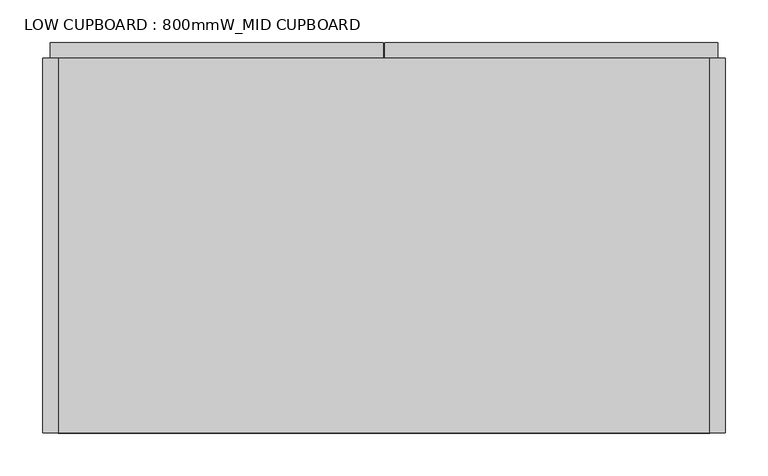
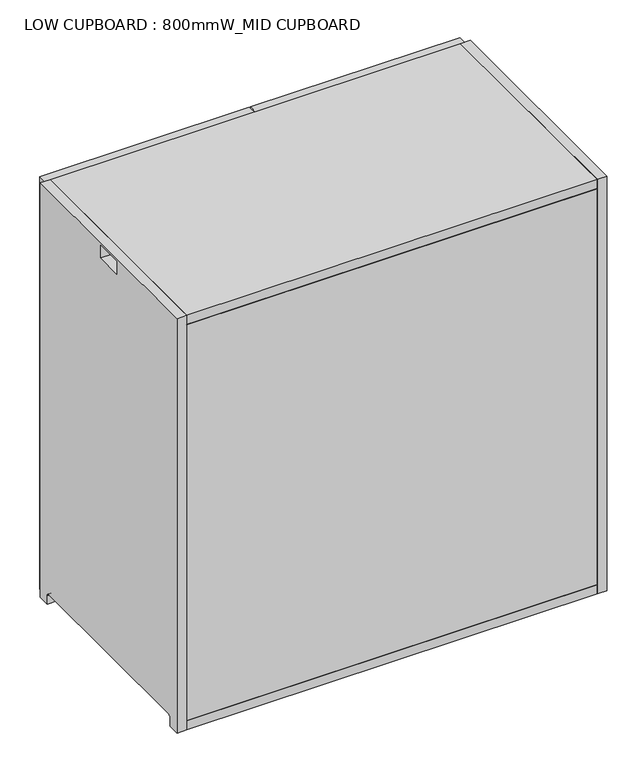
"""IFC4 building model written with IfcOpenShell, lengths in millimetres: furniture geometry, LOW CUPBOARD : 800mmW_MID CUPBOARD."""

from ifc_helpers import new_model, si_unit, point, frame, frame_2d, origin, place, context, project, spatial, polyline, circle_curve, trimmed, segment, composite_curve, outline, extrude, source, transform, mapped, element, save
from ifc_brep_helpers import plane_surface, revolved_surface, advanced_brep


def low_cupboard_800mmw_mid_cupboard_bf2255b2(model_context):
    return source(origin(), model_context, "Body", "SolidModel", [
        extrude(outline(composite_curve([segment(polyline([(220.0, 815.0), (220.0, 0.0), (198.0, 0.0), (198.0, 17.0)]), True, "CONTINUOUS"), segment(trimmed(circle_curve(frame_2d((194.0, 17.0)), 4.0), [point((198.0, 17.0))], [point((194.0, 21.0))], True, "CARTESIAN"), True, "CONTINUOUS"), segment(polyline([(194.0, 21.0), (-194.0, 21.0)]), True, "CONTINUOUS"), segment(trimmed(circle_curve(frame_2d((-194.0, 17.0)), 4.0), [point((-194.0, 21.0))], [point((-198.0, 17.0))], True, "CARTESIAN"), True, "CONTINUOUS"), segment(polyline([(-198.0, 17.0), (-198.0, 0.0), (-220.0, 0.0), (-220.0, 815.0), (220.0, 815.0)]), True, "CONTINUOUS")], self_intersect=False), holes=[polyline([(26.0, 810.0), (-26.0, 810.0), (-26.0, 785.0), (26.0, 785.0), (26.0, 810.0)])]), frame((-400.0, 0.0, 0.0), z_axis=(1.0, 0.0, 0.0), x_axis=(0.0, 1.0, 0.0)), (0.0, 0.0, 1.0), 18.0),
        advanced_brep(
        [(382.0, -220.0, 18.0), (382.0, 220.0, 18.0), (-382.0, 220.0, 18.0), (-382.0, 197.8729833, 18.0), (-376.1019215, 197.8729833, 18.0), (-376.1019215, -197.8729833, 18.0), (-382.0, -197.8729833, 18.0), (-382.0, -220.0, 18.0), (382.0, -220.0, 0.0), (-382.0, -220.0, 0.0), (-382.0, -198.0, 0.0), (-376.1019215, -198.0, 0.0), (-376.1019215, 198.0, 0.0), (-382.0, 198.0, 0.0), (-382.0, 220.0, 0.0), (382.0, 220.0, 0.0), (-382.0, -198.0, 17.0), (-382.0, 198.0, 17.0), (-376.1019215, -198.0, 17.0), (-376.1019215, 198.0, 17.0)],
        [
            (0, 1),
            (1, 2),
            (2, 3),
            (3, 4),
            (4, 5),
            (5, 6),
            (6, 7),
            (7, 0),
            (8, 9),
            (9, 10),
            (10, 11),
            (11, 12),
            (12, 13),
            (13, 14),
            (14, 15),
            (15, 8),
            (7, 9),
            (8, 0),
            (6, 16, circle_curve(frame((-382.0, -194.0, 17.0), z_axis=(1.0, 0.0, 0.0), x_axis=(0.0, -1.0, 0.0)), 4.0)),
            (16, 10),
            (13, 17),
            (17, 3, circle_curve(frame((-382.0, 194.0, 17.0), z_axis=(1.0, 0.0, 0.0), x_axis=(0.0, -1.0, 0.0)), 4.0)),
            (2, 14),
            (1, 15),
            (18, 5, circle_curve(frame((-376.1019215, -194.0, 17.0), z_axis=(-1.0, 0.0, 0.0), x_axis=(0.0, -1.0, 0.0)), 4.0)),
            (4, 19, circle_curve(frame((-376.1019215, 194.0, 17.0), z_axis=(-1.0, 0.0, 0.0), x_axis=(0.0, -1.0, 0.0)), 4.0)),
            (19, 12),
            (11, 18),
            (17, 19),
            (16, 18),
        ],
        [
            plane_surface(frame((-382.0, -220.0, 18.0), z_axis=(0.0, 0.0, 1.0), x_axis=(-1.0, 0.0, 0.0))),
            plane_surface(frame((-382.0, -220.0, 0.0), z_axis=(0.0, 0.0, -1.0), x_axis=(1.0, 0.0, 0.0))),
            plane_surface(frame((382.0, -220.0, 18.0), z_axis=(0.0, -1.0, 0.0), x_axis=(0.0, 0.0, -1.0))),
            plane_surface(frame((-382.0, -220.0, 18.0), z_axis=(-1.0, 0.0, 0.0), x_axis=(0.0, 0.0, -1.0))),
            plane_surface(frame((-382.0, 220.0, 18.0), z_axis=(0.0, 1.0, 0.0), x_axis=(0.0, 0.0, -1.0))),
            plane_surface(frame((382.0, 220.0, 18.0), z_axis=(1.0, 0.0, 0.0), x_axis=(0.0, 0.0, -1.0))),
            plane_surface(frame((-376.1019215, 190.0, 17.0), z_axis=(-1.0, 0.0, 0.0), x_axis=(0.0, 0.0, 1.0))),
            revolved_surface(polyline([(-376.1019215, 190.0, 17.0), (-382.0, 190.0, 17.0)]), (-406.0458228, 194.0, 17.0), (1.0, 0.0, 0.0)),
            plane_surface(frame((-376.1019215, 198.0, 17.0), z_axis=(0.0, -1.0, 0.0), x_axis=(-1.0, 0.0, 0.0))),
            plane_surface(frame((-376.1019215, -198.0, 0.0), z_axis=(0.0, 1.0, 0.0), x_axis=(-1.0, 0.0, 0.0))),
            revolved_surface(polyline([(-376.1019215, -198.0, 17.0), (-382.0, -198.0, 17.0)]), (-406.0458228, -194.0, 17.0), (1.0, 0.0, 0.0)),
        ],
        [
            (0, [[1, 2, 3, 4, 5, 6, 7, 8]]),
            (1, [[9, 10, 11, 12, 13, 14, 15, 16]]),
            (2, [[17, -9, 18, -8]]),
            (3, [[-7, 19, 20, -10, -17]]),
            (3, [[-14, 21, 22, -3, 23]]),
            (4, [[24, -15, -23, -2]]),
            (5, [[-18, -16, -24, -1]]),
            (6, [[25, -5, 26, 27, -12, 28]]),
            (7, [[-4, -22, 29, -26]]),
            (8, [[-29, -21, -13, -27]]),
            (9, [[-11, -20, 30, -28]]),
            (10, [[-30, -19, -6, -25]]),
        ],
    ),
        extrude(outline(composite_curve([segment(polyline([(220.0, 815.0), (220.0, 0.0), (198.0, 0.0), (198.0, 17.0)]), True, "CONTINUOUS"), segment(trimmed(circle_curve(frame_2d((194.0, 17.0)), 4.0), [point((198.0, 17.0))], [point((194.0, 21.0))], True, "CARTESIAN"), True, "CONTINUOUS"), segment(polyline([(194.0, 21.0), (-194.0, 21.0)]), True, "CONTINUOUS"), segment(trimmed(circle_curve(frame_2d((-194.0, 17.0)), 4.0), [point((-194.0, 21.0))], [point((-198.0, 17.0))], True, "CARTESIAN"), True, "CONTINUOUS"), segment(polyline([(-198.0, 17.0), (-198.0, 0.0), (-220.0, 0.0), (-220.0, 815.0), (220.0, 815.0)]), True, "CONTINUOUS")], self_intersect=False), holes=[polyline([(26.0, 810.0), (-26.0, 810.0), (-26.0, 785.0), (26.0, 785.0), (26.0, 810.0)])]), frame((382.0, 0.0, 0.0), z_axis=(1.0, 0.0, 0.0), x_axis=(0.0, 1.0, 0.0)), (0.0, 0.0, 1.0), 18.0),
        extrude(outline(polyline([(382.0, -220.0), (-382.0, -220.0), (-382.0, -202.0), (382.0, -202.0), (382.0, -220.0)])), frame((0.0, 0.0, 18.0), z_axis=(0.0, 0.0, 1.0), x_axis=(1.0, 0.0, 0.0)), (0.0, 0.0, 1.0), 779.0),
        extrude(outline(polyline([(382.0, -202.0), (-382.0, -202.0), (-382.0, 220.0), (382.0, 220.0), (382.0, -202.0)])), frame((0.0, 0.0, 398.5), z_axis=(0.0, 0.0, 1.0), x_axis=(1.0, 0.0, 0.0)), (0.0, 0.0, 1.0), 18.0),
        extrude(outline(polyline([(382.0, -220.0), (-382.0, -220.0), (-382.0, 220.0), (382.0, 220.0), (382.0, -220.0)])), frame((0.0, 0.0, 797.0), z_axis=(0.0, 0.0, 1.0), x_axis=(1.0, 0.0, 0.0)), (0.0, 0.0, 1.0), 18.0),
        extrude(outline(polyline([(9.0, -202.0), (-9.0, -202.0), (-9.0, 220.0), (9.0, 220.0), (9.0, -202.0)])), frame((0.0, 0.0, 18.0), z_axis=(0.0, 0.0, 1.0), x_axis=(1.0, 0.0, 0.0)), (0.0, 0.0, 1.0), 779.0),
        extrude(outline(polyline([(391.0, 220.0), (1.0, 220.0), (1.0, 238.0), (391.0, 238.0), (391.0, 220.0)])), frame((0.0, 0.0, 2.0), z_axis=(0.0, 0.0, 1.0), x_axis=(1.0, 0.0, 0.0)), (0.0, 0.0, 1.0), 811.0),
        extrude(outline(polyline([(-391.0, 220.0), (-391.0, 238.0), (-1.0, 238.0), (-1.0, 220.0), (-391.0, 220.0)])), frame((0.0, 0.0, 2.0), z_axis=(0.0, 0.0, 1.0), x_axis=(1.0, 0.0, 0.0)), (0.0, 0.0, 1.0), 811.0),
    ])


if __name__ == "__main__":
    model = new_model("IFC4")
    model_context = context("Model", 3, world=origin())
    ifc_project = project(units=[si_unit("LENGTHUNIT", "METRE", prefix="MILLI")], contexts=[model_context])
    site = spatial("IfcSite", under=ifc_project)
    building = spatial("IfcBuilding", under=site)
    placement = place(None, origin())
    low_cupboard_800mmw_mid_cupboard_shape = low_cupboard_800mmw_mid_cupboard_bf2255b2(model_context)
    element("IfcFurniture", 1, ObjectType="LOW CUPBOARD : 800mmW_MID CUPBOARD", at=placement, inside=building, context=model_context, shape_type="MappedRepresentation", body=[
        mapped(low_cupboard_800mmw_mid_cupboard_shape, transform((0.0, 0.0, 0.0), x_axis=(1.0, 0.0, 0.0), y_axis=(0.0, 1.0, 0.0), z_axis=(0.0, 0.0, 1.0))),
    ])
    save(model, "model.ifc")
